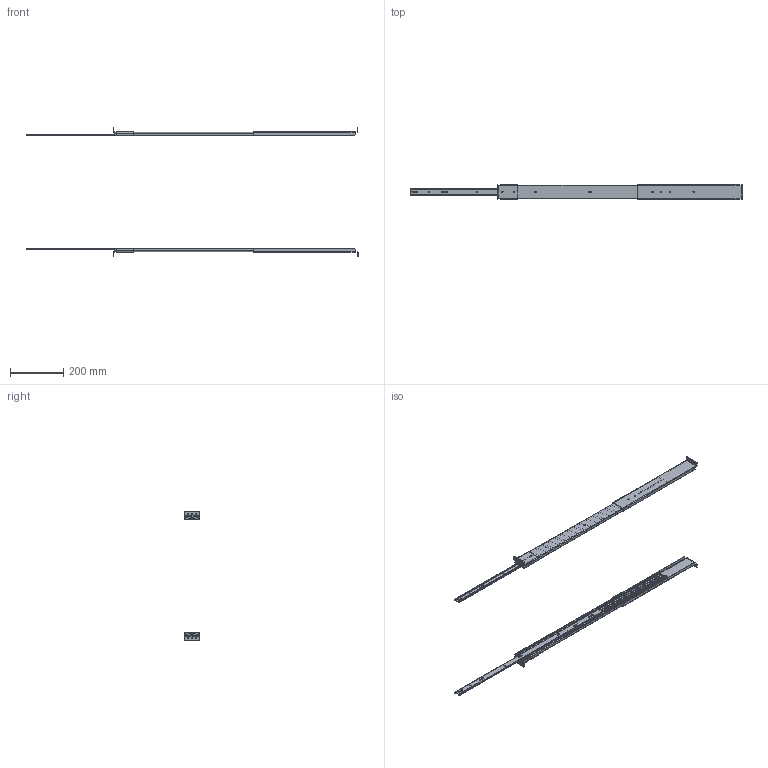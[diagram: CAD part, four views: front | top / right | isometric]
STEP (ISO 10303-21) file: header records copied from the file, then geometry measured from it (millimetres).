
FILE_DESCRIPTION (( 'STEP AP203' ), '1' );
FILE_NAME ('310113529.STEP', '2009-10-16T15:38:16', ( ' ' ), ( ' ' ), 'SwSTEP 2.0', 'SolidWorks 2009', '' );
FILE_SCHEMA (( 'CONFIG_CONTROL_DESIGN' ));
Length unit declared in the file: inch
Products named in the file (1): 310113529
Bounding box: 1245.07 x 56.01 x 482.4 mm (x, y, z)
Volume: 944589.6 mm3; surface area: 516077.9 mm2
Topology: 2 solids, 2 shells, 484 faces, 1378 edges, 904 vertices
Faces by surface type: cylinder 270, plane 214
Entity records: 16231 total; most frequent: DIRECTION 2896, CARTESIAN_POINT 2815, ORIENTED_EDGE 2756, EDGE_CURVE 1378, AXIS2_PLACEMENT_3D 1041, VERTEX_POINT 904, VECTOR 814, LINE 814
